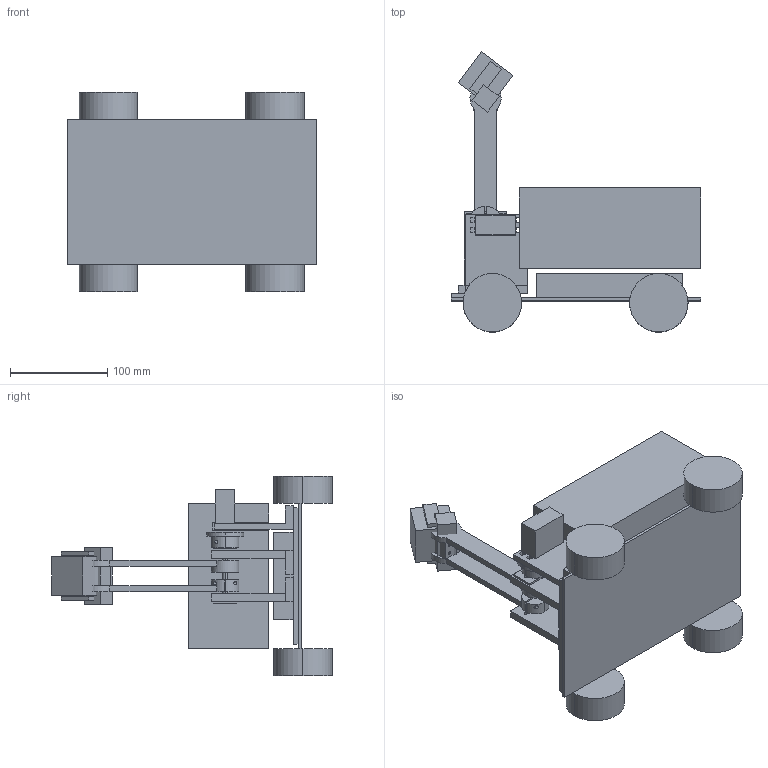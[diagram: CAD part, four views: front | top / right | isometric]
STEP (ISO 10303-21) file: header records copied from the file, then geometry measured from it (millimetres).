
FILE_DESCRIPTION (( 'STEP AP203' ), '1' );
FILE_NAME ('FlipArm_V2_raised.STEP', '2026-09-18T10:20:19', ( '15300530775@163.com' ), ( '' ), 'SwSTEP 2.0', 'SolidWorks 2026', '' );
FILE_SCHEMA (( 'CONFIG_CONTROL_DESIGN' ));
Length unit declared in the file: millimetre
Products named in the file (18): V2_05_wrist_adapter; V2_REF_gripper_finger; V2_REF_chassis_255p8x149; V2_REF_MG995_envelope; V2_REF_625ZZ; V2_04_arm_plate; V2_REF_5mm_shaft; V2_03_bearing_retainer; V2_01_base; V2_06_horn_coupler; V2_bin_180x143x80; V2_REF_electronics_envelope; V2_07_servo_stand; FlipArm_V2_raised; V2_REF_gripper_body; V2_REF_block40; V2_02_bearing_tower; V2_REF_wheel_D60
Assembly tree (25 placements, depth 2):
  FlipArm_V2_raised
    V2_REF_chassis_255p8x149
    V2_REF_wheel_D60  x4
    V2_REF_electronics_envelope
    V2_bin_180x143x80
    V2_01_base
    V2_02_bearing_tower  x2
    V2_03_bearing_retainer  x2
    V2_REF_625ZZ  x2
    V2_REF_5mm_shaft
    V2_04_arm_plate  x2
    V2_05_wrist_adapter
    V2_06_horn_coupler
    V2_07_servo_stand
    V2_REF_MG995_envelope
    V2_REF_gripper_body
    V2_REF_gripper_finger  x2
    V2_REF_block40
Bounding box: 255.8 x 288 x 205 mm (x, y, z)
Volume: 1361695.2 mm3; surface area: 447123.1 mm2
Topology: 25 solids, 25 shells, 327 faces, 846 edges, 564 vertices
Faces by surface type: plane 192, cylinder 135
Entity records: 10820 total; most frequent: CARTESIAN_POINT 2266, ORIENTED_EDGE 1308, DIRECTION 1300, EDGE_CURVE 654, VECTOR 456, LINE 456, VERTEX_POINT 436, AXIS2_PLACEMENT_3D 422
